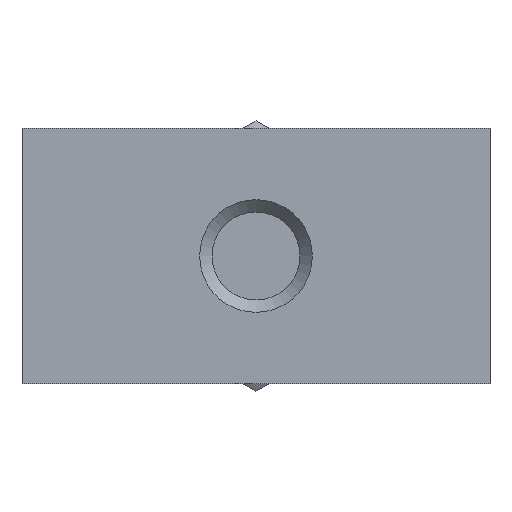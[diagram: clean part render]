
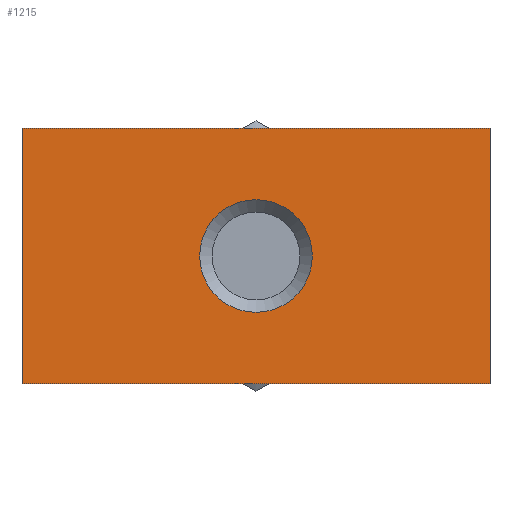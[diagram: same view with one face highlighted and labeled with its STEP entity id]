
A CAD part, front view. The second image highlights one B-rep face of the part: STEP entity #1215.
In plain terms, the highlighted planar face has unit normal (0, -1, 0).
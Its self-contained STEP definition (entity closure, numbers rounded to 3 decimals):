
#80=FACE_BOUND('',#318,.T.);
#81=FACE_BOUND('',#319,.T.);
#140=CIRCLE('',#1322,2.65);
#318=EDGE_LOOP('',(#962));
#319=EDGE_LOOP('',(#963,#964,#965,#966));
#433=LINE('',#2006,#477);
#436=LINE('',#2011,#480);
#439=LINE('',#2016,#483);
#440=LINE('',#2018,#484);
#477=VECTOR('',#1609,22.);
#480=VECTOR('',#1614,12.);
#483=VECTOR('',#1619,12.);
#484=VECTOR('',#1622,22.);
#558=VERTEX_POINT('',#1976);
#568=VERTEX_POINT('',#2004);
#569=VERTEX_POINT('',#2005);
#570=VERTEX_POINT('',#2010);
#571=VERTEX_POINT('',#2014);
#691=EDGE_CURVE('',#558,#558,#140,.T.);
#701=EDGE_CURVE('',#568,#569,#433,.T.);
#704=EDGE_CURVE('',#570,#569,#436,.T.);
#707=EDGE_CURVE('',#568,#571,#439,.T.);
#708=EDGE_CURVE('',#570,#571,#440,.T.);
#962=ORIENTED_EDGE('',*,*,#691,.T.);
#963=ORIENTED_EDGE('',*,*,#707,.T.);
#964=ORIENTED_EDGE('',*,*,#708,.F.);
#965=ORIENTED_EDGE('',*,*,#704,.T.);
#966=ORIENTED_EDGE('',*,*,#701,.F.);
#1093=PLANE('',#1342);
#1215=ADVANCED_FACE('',(#80,#81),#1093,.T.);
#1322=AXIS2_PLACEMENT_3D('',#1977,#1573,#1574);
#1342=AXIS2_PLACEMENT_3D('',#2017,#1620,#1621);
#1573=DIRECTION('center_axis',(0.,1.,0.));
#1574=DIRECTION('ref_axis',(1.,0.,0.));
#1609=DIRECTION('',(-1.,0.,0.));
#1614=DIRECTION('',(0.,0.,-1.));
#1619=DIRECTION('',(0.,0.,1.));
#1620=DIRECTION('center_axis',(0.,-1.,0.));
#1621=DIRECTION('ref_axis',(1.,0.,0.));
#1622=DIRECTION('',(1.,0.,0.));
#1976=CARTESIAN_POINT('',(2.65,-11.,0.));
#1977=CARTESIAN_POINT('Origin',(0.,-11.,0.));
#2004=CARTESIAN_POINT('',(11.,-11.,-6.));
#2005=CARTESIAN_POINT('',(-11.,-11.,-6.));
#2006=CARTESIAN_POINT('',(11.,-11.,-6.));
#2010=CARTESIAN_POINT('',(-11.,-11.,6.));
#2011=CARTESIAN_POINT('',(-11.,-11.,0.));
#2014=CARTESIAN_POINT('',(11.,-11.,6.));
#2016=CARTESIAN_POINT('',(11.,-11.,0.));
#2017=CARTESIAN_POINT('Origin',(-11.,-11.,0.));
#2018=CARTESIAN_POINT('',(11.,-11.,6.));
